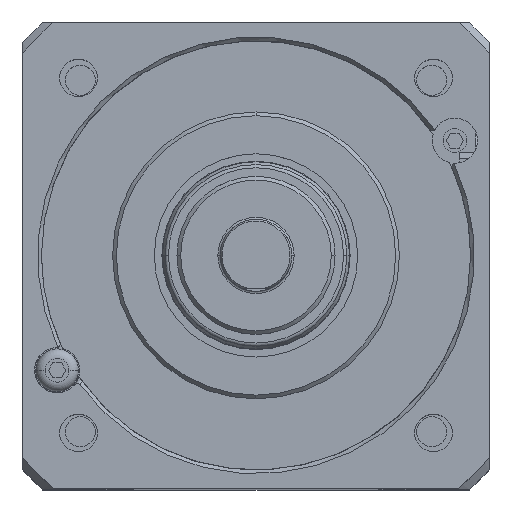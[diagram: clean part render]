
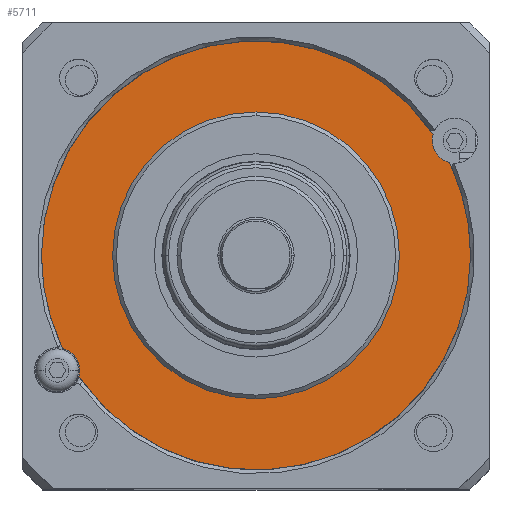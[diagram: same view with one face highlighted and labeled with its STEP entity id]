
A CAD part, top view. The second image highlights one B-rep face of the part: STEP entity #5711.
In plain terms, the highlighted planar face has unit normal (0, 0, 1).
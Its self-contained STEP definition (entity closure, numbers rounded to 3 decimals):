
#5497=CARTESIAN_POINT('',(0.,0.,-0.2));
#5498=DIRECTION('',(0.,0.,-1.));
#5499=DIRECTION('',(0.,-1.,0.));
#5500=AXIS2_PLACEMENT_3D('',#5497,#5498,#5499);
#5502=CARTESIAN_POINT('',(0.,0.,-0.2));
#5503=DIRECTION('',(0.,0.,-1.));
#5504=DIRECTION('',(0.,1.,0.));
#5505=AXIS2_PLACEMENT_3D('',#5502,#5503,#5504);
#5507=CARTESIAN_POINT('',(0.,0.,-0.2));
#5508=DIRECTION('',(0.,0.,-1.));
#5509=DIRECTION('',(-0.901,-0.433,0.));
#5510=AXIS2_PLACEMENT_3D('',#5507,#5508,#5509);
#5512=CARTESIAN_POINT('',(0.,0.,-0.2));
#5513=DIRECTION('',(0.,0.,-1.));
#5514=DIRECTION('',(-1.,0.,0.));
#5515=AXIS2_PLACEMENT_3D('',#5512,#5513,#5514);
#5517=CARTESIAN_POINT('',(26.414,15.25,-0.2));
#5518=DIRECTION('',(0.,0.,1.));
#5519=DIRECTION('',(-0.961,0.277,0.));
#5520=AXIS2_PLACEMENT_3D('',#5517,#5518,#5519);
#5522=CARTESIAN_POINT('',(0.,0.,-0.2));
#5523=DIRECTION('',(0.,0.,-1.));
#5524=DIRECTION('',(0.901,0.433,0.));
#5525=AXIS2_PLACEMENT_3D('',#5522,#5523,#5524);
#5527=CARTESIAN_POINT('',(0.,0.,-0.2));
#5528=DIRECTION('',(0.,0.,-1.));
#5529=DIRECTION('',(1.,0.,0.));
#5530=AXIS2_PLACEMENT_3D('',#5527,#5528,#5529);
#5532=CARTESIAN_POINT('',(-26.414,-15.25,-0.2));
#5533=DIRECTION('',(0.,0.,-1.));
#5534=DIRECTION('',(0.241,0.971,0.));
#5535=AXIS2_PLACEMENT_3D('',#5532,#5533,#5534);
#5558=CARTESIAN_POINT('',(0.,-19.05,-0.2));
#5559=CARTESIAN_POINT('',(0.,19.05,-0.2));
#5560=VERTEX_POINT('',#5558);
#5561=VERTEX_POINT('',#5559);
#5570=CARTESIAN_POINT('',(28.5,0.,-0.2));
#5571=CARTESIAN_POINT('',(25.691,12.338,-0.2));
#5572=VERTEX_POINT('',#5570);
#5573=VERTEX_POINT('',#5571);
#5574=CARTESIAN_POINT('',(23.531,16.08,-0.2));
#5575=CARTESIAN_POINT('',(-28.5,0.,-0.2));
#5576=VERTEX_POINT('',#5574);
#5577=VERTEX_POINT('',#5575);
#5579=CARTESIAN_POINT('',(-25.691,-12.338,-0.2));
#5581=VERTEX_POINT('',#5579);
#5583=CARTESIAN_POINT('',(-23.531,-16.08,-0.2));
#5585=VERTEX_POINT('',#5583);
#5688=CARTESIAN_POINT('',(0.,0.,-0.2));
#5689=DIRECTION('',(0.,0.,1.));
#5690=DIRECTION('',(0.,-1.,0.));
#5691=AXIS2_PLACEMENT_3D('',#5688,#5689,#5690);
#5692=PLANE('',#5691);
#5694=ORIENTED_EDGE('',*,*,#5693,.F.);
#5696=ORIENTED_EDGE('',*,*,#5695,.T.);
#5698=ORIENTED_EDGE('',*,*,#5697,.T.);
#5700=ORIENTED_EDGE('',*,*,#5699,.T.);
#5702=ORIENTED_EDGE('',*,*,#5701,.T.);
#5704=ORIENTED_EDGE('',*,*,#5703,.T.);
#5705=EDGE_LOOP('',(#5694,#5696,#5698,#5700,#5702,#5704));
#5706=FACE_OUTER_BOUND('',#5705,.F.);
#5707=ORIENTED_EDGE('',*,*,#5682,.F.);
#5708=ORIENTED_EDGE('',*,*,#5668,.F.);
#5709=EDGE_LOOP('',(#5707,#5708));
#5710=FACE_BOUND('',#5709,.F.);
#5711=ADVANCED_FACE('',(#5706,#5710),#5692,.T.);
#5501=CIRCLE('',#5500,19.05);
#5506=CIRCLE('',#5505,19.05);
#5511=CIRCLE('',#5510,28.5);
#5516=CIRCLE('',#5515,28.5);
#5521=CIRCLE('',#5520,3.);
#5526=CIRCLE('',#5525,28.5);
#5531=CIRCLE('',#5530,28.5);
#5536=CIRCLE('',#5535,3.);
#5668=EDGE_CURVE('',#5561,#5560,#5506,.T.);
#5682=EDGE_CURVE('',#5560,#5561,#5501,.T.);
#5693=EDGE_CURVE('',#5581,#5585,#5536,.T.);
#5695=EDGE_CURVE('',#5581,#5577,#5511,.T.);
#5697=EDGE_CURVE('',#5577,#5576,#5516,.T.);
#5699=EDGE_CURVE('',#5576,#5573,#5521,.T.);
#5701=EDGE_CURVE('',#5573,#5572,#5526,.T.);
#5703=EDGE_CURVE('',#5572,#5585,#5531,.T.);
